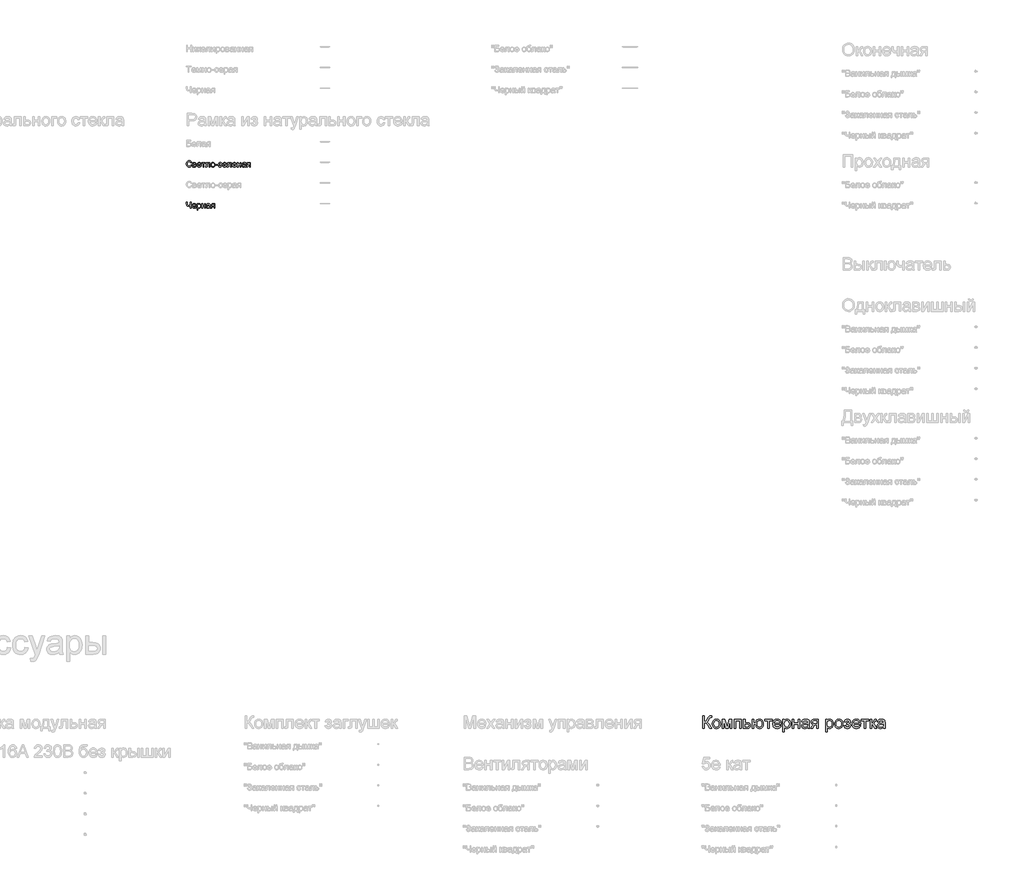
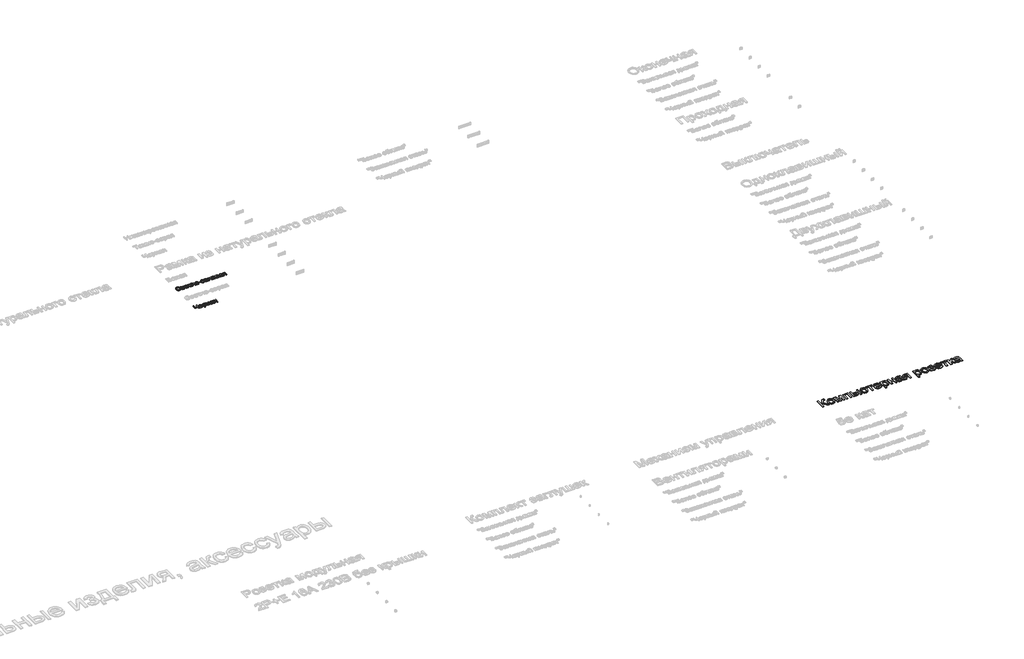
# One storey, part 107 of 168: 3 proxies.
"""IFC4 building model written with IfcOpenShell, lengths in millimetres."""

from ifc_helpers import new_model, si_unit, origin, origin_with_axes, place, context, project, spatial, polyline, outline, extrude, element, save

model = new_model("IFC4")

# Units and contexts
model_context = context("Model", 3, world=origin())
ifc_project = project(units=[si_unit("LENGTHUNIT", "METRE", prefix="MILLI")], contexts=[model_context])

# Site, building, storey
site = spatial("IfcSite", under=ifc_project)
building = spatial("IfcBuilding", under=site)
storey = spatial("IfcBuildingStorey", under=building, Name="Этаж 01", Elevation=0.0)

# Proxies
placement = place(None, origin())
element("IfcBuildingElementProxy", 1, Name="300 мм Arial 2", ObjectType="300 мм Arial 2", at=placement, inside=storey, context=model_context, shape_type="SweptSolid", body=[
    extrude(outline(polyline([(60199.0945017, -30665.4933673), (60236.765618, -30665.4933673), (60236.765618, -30797.3422744), (60262.2690373, -30794.8498738), (60278.8881064, -30787.3726723), (60292.3249963, -30769.7787159), (60308.2818778, -30736.9360507), (60329.0672106, -30694.8135623), (60339.0919949, -30683.4000234), (60352.6116582, -30673.9546532), (60368.6605103, -30667.6086888), (60386.2728608, -30665.4933673), (60410.9945309, -30665.9348257), (60410.9945309, -30703.605942), (60402.6803978, -30703.3852128), (60394.3662647, -30703.1644836), (60377.1125991, -30705.4269579), (60364.9357051, -30712.2143807), (60354.4510682, -30726.469808), (60342.5684798, -30750.989143), (60327.9911557, -30781.5233486), (60315.8970351, -30798.2251911), (60289.8877781, -30813.8233877), (60304.4788977, -30820.0313964), (60318.9688498, -30830.8563241), (60347.6452513, -30866.3569367), (60410.9945309, -30966.8622977), (60367.2901499, -30966.8622977), (60313.7265314, -30881.9551332), (60293.0423662, -30854.7226686), (60276.0186268, -30837.6253528), (60258.6086114, -30828.6030469), (60236.765618, -30825.5956116), (60236.765618, -30966.8622977), (60199.0945017, -30966.8622977), (60199.0945017, -30665.4933673)])), origin_with_axes(), (0.0, 0.0, 1.0), 20.0),
    extrude(outline(polyline([(60429.830089, -30856.2033936), (60431.8672356, -30827.5407876), (60437.9786752, -30802.8421102), (60448.164408, -30782.1073612), (60462.4244338, -30765.3365408), (60476.7810287, -30754.6173791), (60492.6275456, -30746.9608351), (60509.9639846, -30742.3669087), (60528.7903457, -30740.8355999), (60549.5733792, -30742.7003018), (60568.3652514, -30748.2944073), (60585.1659622, -30757.6179167), (60599.9755118, -30770.6708297), (60612.0627346, -30787.0116881), (60620.6964652, -30806.1990334), (60625.8767035, -30828.2328656), (60627.6034496, -30853.1131848), (60624.5500291, -30891.1705772), (60615.3897674, -30920.1412843), (60600.389379, -30941.837125), (60579.8155785, -30958.069918), (60555.3790169, -30968.19587), (60528.7903457, -30971.5711873), (60507.7038096, -30969.7133832), (60488.7371935, -30964.139971), (60471.8904974, -30954.8509506), (60457.1637213, -30941.8463221), (60445.2052572, -30925.3468146), (60436.6634971, -30905.5731573), (60431.538441, -30882.5253503), (60429.830089, -30856.2033936)]), holes=[polyline([(60467.5012053, -30856.1298172), (60471.860607, -30890.2232811), (60484.9388119, -30914.5126898), (60504.6204987, -30929.0532257), (60528.7903457, -30933.900071), (60552.8498282, -30929.0256345), (60572.4947268, -30914.4023252), (60585.5729317, -30889.7910197), (60589.9323333, -30854.9525948), (60585.5453405, -30821.8524123), (60572.3843622, -30797.8940973), (60552.7118725, -30783.3535615), (60528.7903457, -30778.5067162), (60504.6204987, -30783.3351674), (60484.9388119, -30797.820521), (60471.860607, -30822.0547474), (60467.5012053, -30856.1298172)])]), origin_with_axes(), (0.0, 0.0, 1.0), 20.0),
    extrude(outline(polyline([(60669.9834555, -30745.5444894), (60734.804263, -30745.5444894), (60784.762638, -30922.7164583), (60838.6205621, -30745.5444894), (60900.7190429, -30745.5444894), (60900.7190429, -30966.8622977), (60863.0479266, -30966.8622977), (60863.0479266, -30788.6602593), (60808.8956969, -30966.8622977), (60759.4523567, -30966.8622977), (60707.6545718, -30780.125397), (60707.6545718, -30966.8622977), (60669.9834555, -30966.8622977), (60669.9834555, -30745.5444894)])), origin_with_axes(), (0.0, 0.0, 1.0), 20.0),
    extrude(outline(polyline([(60957.2257173, -30745.5444894), (61126.7457407, -30745.5444894), (61126.7457407, -30966.8622977), (61089.0746244, -30966.8622977), (61089.0746244, -30783.2156057), (60994.8968336, -30783.2156057), (60994.8968336, -30966.8622977), (60957.2257173, -30966.8622977), (60957.2257173, -30745.5444894)])), origin_with_axes(), (0.0, 0.0, 1.0), 20.0),
    extrude(outline(polyline([(61183.2524152, -30745.5444894), (61220.9235315, -30745.5444894), (61220.9235315, -30825.5956116), (61264.3336069, -30825.5956116), (61301.967935, -30830.3136982), (61317.1154761, -30836.2113064), (61329.816602, -30844.4679579), (61339.8597805, -30854.7985442), (61347.0334794, -30866.9179567), (61352.7724385, -30896.5232603), (61347.888805, -30923.4798135), (61333.2379046, -30946.2241178), (61322.0060074, -30955.2533215), (61307.8448499, -30961.7027528), (61270.7347536, -30966.8622977), (61183.2524152, -30966.8622977), (61183.2524152, -30745.5444894)]), holes=[polyline([(61220.9235315, -30929.1911814), (61256.0930502, -30929.1911814), (61283.3806972, -30927.2138157), (61301.5264766, -30921.2817185), (61311.7076108, -30911.1557666), (61315.1013222, -30896.5968367), (61312.5905276, -30884.2911839), (61305.0581438, -30873.420271), (61288.9173212, -30865.8051137), (61260.5812105, -30863.2667279), (61220.9235315, -30863.2667279), (61220.9235315, -30929.1911814)])]), origin_with_axes(), (0.0, 0.0, 1.0), 20.0),
    extrude(outline(polyline([(61399.8613339, -30745.5444894), (61437.5324502, -30745.5444894), (61437.5324502, -30830.3045011), (61479.9124561, -30830.3045011), (61489.6889201, -30791.8976208), (61498.2122861, -30776.5569416), (61509.1590747, -30763.7914364), (61522.2211848, -30753.7482579), (61537.0905152, -30746.574559), (61572.2508369, -30740.8355999), (61601.8009581, -30744.2109172), (61624.3797156, -30754.3368691), (61641.798928, -30770.3857212), (61655.8704144, -30791.5297388), (61665.1686318, -30819.3416177), (61668.2680376, -30855.3940532), (61666.6654517, -30882.2494388), (61661.8576938, -30905.6467337), (61653.8447641, -30925.5859379), (61642.6266625, -30942.0670513), (61628.6632416, -30954.9751108), (61612.4143537, -30964.1951533), (61593.8799989, -30969.7271788), (61573.0601772, -30971.5711873), (61553.6567013, -30969.8421419), (61536.2811748, -30964.6550058), (61520.9335978, -30956.0097789), (61507.6139703, -30943.9064612), (61496.6533861, -30928.7865112), (61488.382939, -30911.0913873), (61479.9124561, -30867.9756174), (61437.5324502, -30867.9756174), (61437.5324502, -30966.8622977), (61399.8613339, -30966.8622977), (61399.8613339, -30745.5444894)]), holes=[polyline([(61574.678858, -30778.5067162), (61550.6653608, -30783.3811526), (61532.629946, -30798.0044619), (61521.3451658, -30821.4201509), (61517.5835724, -30852.6717264), (61521.3727569, -30889.0828469), (61532.7403106, -30914.2919606), (61550.4538286, -30928.9980434), (61573.2809064, -30933.900071), (61596.1723636, -30929.3659254), (61614.5204781, -30915.7634886), (61626.5778105, -30892.0626911), (61630.5969213, -30857.2334632), (61627.1204364, -30822.7905114), (61616.6909819, -30798.1884029), (61599.2349812, -30783.4271379), (61574.678858, -30778.5067162)])]), origin_with_axes(), (0.0, 0.0, 1.0), 20.0),
    extrude(outline(polyline([(61696.5213748, -30745.5444894), (61875.4591773, -30745.5444894), (61875.4591773, -30783.2156057), (61804.8258342, -30783.2156057), (61804.8258342, -30966.8622977), (61767.1547179, -30966.8622977), (61767.1547179, -30783.2156057), (61696.5213748, -30783.2156057), (61696.5213748, -30745.5444894)])), origin_with_axes(), (0.0, 0.0, 1.0), 20.0),
    extrude(outline(polyline([(62063.3733004, -30900.9378442), (62100.3086527, -30905.6467337), (62087.0005216, -30933.4770067), (62065.7645334, -30954.2807335), (62037.0789348, -30967.2485738), (62001.4219724, -30971.5711873), (61978.0476702, -30969.7064854), (61957.2209507, -30964.1123798), (61938.9418141, -30954.7888705), (61923.2102603, -30941.7359575), (61910.5597181, -30925.3169242), (61901.5236166, -30905.8950541), (61896.1019557, -30883.4703472), (61894.2947354, -30858.0428036), (61896.1203498, -30831.7530365), (61901.597193, -30808.5810693), (61910.725265, -30788.526902), (61923.5045658, -30771.5905347), (61939.1947329, -30758.1352507), (61957.0554038, -30748.5243336), (61977.0865784, -30742.7577833), (61999.2882569, -30740.8355999), (62020.7748646, -30742.7531848), (62040.2059318, -30748.5059395), (62057.5814583, -30758.093864), (62072.9014441, -30771.5169583), (62085.4071327, -30788.4165374), (62094.3397674, -30808.4339165), (62099.6993482, -30831.5690955), (62101.4858751, -30857.8220744), (62101.2651459, -30867.9756174), (61931.9658517, -30867.9756174), (61938.4865601, -30896.1737724), (61953.6341013, -30916.9039228), (61975.4954888, -30929.6510339), (62002.1577364, -30933.900071), (62022.2073052, -30931.9319023), (62039.0930887, -30926.0273963), (62052.8150872, -30915.8186709), (62063.3733004, -30900.9378442)]), holes=[polyline([(61931.9658517, -30830.3045011), (62063.8147588, -30830.3045011), (62058.7195932, -30810.4020852), (62048.731597, -30796.165052), (62026.7690419, -30782.9213001), (61999.1411041, -30778.5067162), (61973.7480493, -30782.0291863), (61952.7511845, -30792.5965966), (61938.1554663, -30809.068513), (61931.9658517, -30830.3045011)])]), origin_with_axes(), (0.0, 0.0, 1.0), 20.0),
    extrude(outline(polyline([(62139.1569914, -31051.6223094), (62139.1569914, -30745.5444894), (62176.8281077, -30745.5444894), (62176.8281077, -30782.4798418), (62189.1153664, -30764.2604859), (62202.874153, -30751.2466604), (62218.913808, -30743.438365), (62238.0436717, -30740.8355999), (62263.5194999, -30744.4776316), (62285.7947547, -30755.4037269), (62303.9313371, -30772.9516981), (62316.9911479, -30796.4593576), (62324.8822167, -30824.2160541), (62327.512573, -30854.5111364), (62324.5419258, -30886.7284021), (62315.6299845, -30915.5427594), (62301.0618575, -30939.4918773), (62281.1226534, -30957.1134249), (62257.9001024, -30967.9567467), (62233.481935, -30971.5711873), (62216.1638901, -30969.1523632), (62200.7036492, -30961.8958908), (62187.4690944, -30950.9422044), (62176.8281077, -30937.4317381), (62176.8281077, -31051.6223094), (62139.1569914, -31051.6223094)]), holes=[polyline([(62176.8281077, -30857.9692272), (62180.9024008, -30891.7407943), (62193.1252801, -30915.3588184), (62211.1606949, -30929.2647578), (62232.6725946, -30933.900071), (62254.5339822, -30929.0992109), (62273.0292495, -30914.6966308), (62285.6384049, -30890.214084), (62289.8414566, -30855.173324), (62285.7395724, -30821.5856978), (62273.4339197, -30797.63658), (62255.426096, -30783.2891821), (62234.217699, -30778.5067162), (62212.9265285, -30783.5926848), (62194.2289261, -30798.8505905), (62181.1783123, -30823.8021869), (62176.8281077, -30857.9692272)])]), origin_with_axes(), (0.0, 0.0, 1.0), 20.0),
    extrude(outline(polyline([(62369.8925788, -30745.5444894), (62407.5636951, -30745.5444894), (62407.5636951, -30830.3045011), (62506.4503754, -30830.3045011), (62506.4503754, -30745.5444894), (62544.1214917, -30745.5444894), (62544.1214917, -30966.8622977), (62506.4503754, -30966.8622977), (62506.4503754, -30867.9756174), (62407.5636951, -30867.9756174), (62407.5636951, -30966.8622977), (62369.8925788, -30966.8622977), (62369.8925788, -30745.5444894)])), origin_with_axes(), (0.0, 0.0, 1.0), 20.0),
    extrude(outline(polyline([(62741.8948523, -30938.6089605), (62723.8962257, -30954.0416102), (62705.3641702, -30964.139971), (62685.8756215, -30969.7133832), (62665.0075153, -30971.5711873), (62633.5260136, -30967.101421), (62610.3034626, -30953.6921223), (62595.983656, -30933.3298539), (62591.2103871, -30908.0011785), (62593.0130089, -30892.3845878), (62598.4208742, -30878.2027369), (62606.7625984, -30866.0626311), (62617.366797, -30856.5712756), (62643.743936, -30844.2104405), (62676.3382808, -30838.5450578), (62714.8555257, -30832.5853695), (62741.6741231, -30825.5956116), (62741.8948523, -30817.2079021), (62739.3012843, -30800.3956949), (62731.5205801, -30789.3960233), (62714.1197617, -30781.229043), (62689.8763382, -30778.5067162), (62667.4355365, -30780.318535), (62651.7637635, -30785.7539915), (62641.0767915, -30795.806367), (62633.5903929, -30811.468943), (62595.9192766, -30806.7600534), (62602.4583791, -30786.1586617), (62612.216449, -30769.9718539), (62626.1039943, -30757.5926248), (62645.031523, -30748.413969), (62668.1804975, -30742.7301922), (62694.7323805, -30740.8355999), (62720.1990117, -30742.509463), (62740.3865361, -30747.5310522), (62755.6076537, -30755.0818302), (62766.175064, -30764.3432594), (62773.183216, -30775.7935865), (62777.7265586, -30789.9110581), (62779.5659686, -30822.8732848), (62779.5659686, -30869.741451), (62781.478955, -30935.1876579), (62788.9837477, -30966.8622977), (62751.3126314, -30966.8622977), (62741.8948523, -30938.6089605)]), holes=[polyline([(62741.8948523, -30863.2667279), (62681.1207467, -30874.8182225), (62648.7103429, -30880.9250637), (62634.0318513, -30890.8578775), (62628.8815034, -30905.3524281), (62631.6866036, -30916.5544349), (62640.1019043, -30925.7330907), (62653.9434643, -30931.8583259), (62673.0273428, -30933.900071), (62693.2608526, -30931.6467937), (62711.1399175, -30924.8869621), (62725.6344681, -30914.9265571), (62735.7144348, -30903.0715598), (62740.184201, -30890.8578775), (62741.6741231, -30873.9353058), (62741.8948523, -30863.2667279)])]), origin_with_axes(), (0.0, 0.0, 1.0), 20.0),
    extrude(outline(polyline([(63000.8837769, -30745.5444894), (63000.8837769, -30966.8622977), (62963.2126606, -30966.8622977), (62963.2126606, -30882.102286), (62942.6848453, -30882.102286), (62914.7258137, -30886.884752), (62903.5605951, -30897.3142065), (62888.4590392, -30919.0376384), (62858.4398684, -30966.8622977), (62814.8826402, -30966.8622977), (62852.7009093, -30906.3824977), (62869.4027518, -30884.67746), (62884.7802192, -30875.0389517), (62859.0284796, -30867.1478829), (62840.9286854, -30852.1566916), (62830.2233194, -30832.2174875), (62826.654864, -30809.4823802), (62831.5293004, -30783.6938523), (62846.1526098, -30763.2764016), (62870.0097571, -30749.9774675), (62902.5857078, -30745.5444894), (63000.8837769, -30745.5444894)]), holes=[polyline([(62963.2126606, -30783.2156057), (62913.5485913, -30783.2156057), (62887.8980192, -30785.3953066), (62873.3390892, -30791.934409), (62866.5792575, -30801.3981734), (62864.3259803, -30812.3518598), (62867.6461153, -30826.7084546), (62877.6065203, -30836.6688596), (62896.0098171, -30842.4905922), (62924.6586275, -30844.4311697), (62963.2126606, -30844.4311697), (62963.2126606, -30783.2156057)])]), origin_with_axes(), (0.0, 0.0, 1.0), 20.0),
    extrude(outline(polyline([(63175.1126898, -31051.6223094), (63175.1126898, -30745.5444894), (63212.7838061, -30745.5444894), (63212.7838061, -30782.4798418), (63225.0710648, -30764.2604859), (63238.8298514, -30751.2466604), (63254.8695064, -30743.438365), (63273.9993701, -30740.8355999), (63299.4751983, -30744.4776316), (63321.7504531, -30755.4037269), (63339.8870355, -30772.9516981), (63352.9468463, -30796.4593576), (63360.8379151, -30824.2160541), (63363.4682714, -30854.5111364), (63360.4976243, -30886.7284021), (63351.5856829, -30915.5427594), (63337.0175559, -30939.4918773), (63317.0783518, -30957.1134249), (63293.8558008, -30967.9567467), (63269.4376334, -30971.5711873), (63252.1195885, -30969.1523632), (63236.6593476, -30961.8958908), (63223.4247929, -30950.9422044), (63212.7838061, -30937.4317381), (63212.7838061, -31051.6223094), (63175.1126898, -31051.6223094)]), holes=[polyline([(63212.7838061, -30857.9692272), (63216.8580992, -30891.7407943), (63229.0809785, -30915.3588184), (63247.1163933, -30929.2647578), (63268.628293, -30933.900071), (63290.4896806, -30929.0992109), (63308.9849479, -30914.6966308), (63321.5941033, -30890.214084), (63325.7971551, -30855.173324), (63321.6952708, -30821.5856978), (63309.3896181, -30797.63658), (63291.3817944, -30783.2891821), (63270.1733974, -30778.5067162), (63248.8822269, -30783.5926848), (63230.1846245, -30798.8505905), (63217.1340107, -30823.8021869), (63212.7838061, -30857.9692272)])]), origin_with_axes(), (0.0, 0.0, 1.0), 20.0),
    extrude(outline(polyline([(63396.4304981, -30856.2033936), (63398.4676447, -30827.5407876), (63404.5790843, -30802.8421102), (63414.7648171, -30782.1073612), (63429.0248429, -30765.3365408), (63443.3814378, -30754.6173791), (63459.2279547, -30746.9608351), (63476.5643937, -30742.3669087), (63495.3907548, -30740.8355999), (63516.1737883, -30742.7003018), (63534.9656605, -30748.2944073), (63551.7663713, -30757.6179167), (63566.5759209, -30770.6708297), (63578.6631437, -30787.0116881), (63587.2968743, -30806.1990334), (63592.4771126, -30828.2328656), (63594.2038587, -30853.1131848), (63591.1504382, -30891.1705772), (63581.9901765, -30920.1412843), (63566.9897882, -30941.837125), (63546.4159876, -30958.069918), (63521.979426, -30968.19587), (63495.3907548, -30971.5711873), (63474.3042187, -30969.7133832), (63455.3376026, -30964.139971), (63438.4909065, -30954.8509506), (63423.7641304, -30941.8463221), (63411.8056663, -30925.3468146), (63403.2639062, -30905.5731573), (63398.1388502, -30882.5253503), (63396.4304981, -30856.2033936)]), holes=[polyline([(63434.1016144, -30856.1298172), (63438.4610161, -30890.2232811), (63451.539221, -30914.5126898), (63471.2209078, -30929.0532257), (63495.3907548, -30933.900071), (63519.4502373, -30929.0256345), (63539.0951359, -30914.4023252), (63552.1733408, -30889.7910197), (63556.5327424, -30854.9525948), (63552.1457496, -30821.8524123), (63538.9847713, -30797.8940973), (63519.3122816, -30783.3535615), (63495.3907548, -30778.5067162), (63471.2209078, -30783.3351674), (63451.539221, -30797.820521), (63438.4610161, -30822.0547474), (63434.1016144, -30856.1298172)])]), origin_with_axes(), (0.0, 0.0, 1.0), 20.0),
    extrude(outline(polyline([(63688.3816495, -30867.9756174), (63688.3816495, -30830.3045011), (63718.1065147, -30828.8329731), (63733.1161001, -30820.9970866), (63738.4136009, -30813.6486438), (63740.1794344, -30804.6263379), (63737.8157926, -30793.9117748), (63730.7248672, -30785.6068387), (63719.8999394, -30780.2817468), (63706.3342909, -30778.5067162), (63692.6214895, -30780.2725498), (63681.1343742, -30785.5700505), (63671.872945, -30794.3992184), (63664.8372018, -30806.7600534), (63622.457196, -30802.0511639), (63633.6959909, -30775.2693546), (63650.7841096, -30756.1394909), (63673.721552, -30744.6615726), (63702.5083181, -30740.8355999), (63733.9990169, -30745.4985042), (63757.8377702, -30759.4872171), (63772.8473556, -30779.950653), (63777.8505507, -30804.0377267), (63776.0709216, -30816.3985617), (63770.7320341, -30827.4350216), (63761.8338884, -30837.1471062), (63749.3764843, -30845.5348157), (63763.9170202, -30856.0010585), (63774.2820954, -30869.005687), (63780.4901041, -30884.5854895), (63782.5594403, -30902.7772542), (63777.3079248, -30930.5063596), (63761.5533784, -30952.4781117), (63736.3626587, -30966.7979184), (63702.8026237, -30971.5711873), (63669.9783527, -30967.1566033), (63644.8612095, -30953.9128515), (63627.4511941, -30931.8399318), (63617.7483064, -30900.9378442), (63660.1283123, -30896.2289547), (63666.4742767, -30912.1582451), (63677.1244605, -30924.0408335), (63690.8464589, -30931.4352616), (63706.4078673, -30933.900071), (63721.5646055, -30931.5364291), (63733.9254405, -30924.4455037), (63742.1476031, -30913.6757583), (63744.888324, -30900.2756566), (63743.1868697, -30889.662261), (63738.0825071, -30880.4836053), (63723.5879564, -30869.8886038), (63695.7392894, -30867.7548882), (63688.3816495, -30867.9756174)])), origin_with_axes(), (0.0, 0.0, 1.0), 20.0),
    extrude(outline(polyline([(63984.600232, -30900.9378442), (64021.5355843, -30905.6467337), (64008.2274532, -30933.4770067), (63986.991465, -30954.2807335), (63958.3058664, -30967.2485738), (63922.648904, -30971.5711873), (63899.2746018, -30969.7064854), (63878.4478823, -30964.1123798), (63860.1687457, -30954.7888705), (63844.4371919, -30941.7359575), (63831.7866498, -30925.3169242), (63822.7505482, -30905.8950541), (63817.3288873, -30883.4703472), (63815.521667, -30858.0428036), (63817.3472814, -30831.7530365), (63822.8241246, -30808.5810693), (63831.9521967, -30788.526902), (63844.7314975, -30771.5905347), (63860.4216646, -30758.1352507), (63878.2823354, -30748.5243336), (63898.3135101, -30742.7577833), (63920.5151885, -30740.8355999), (63942.0017962, -30742.7531848), (63961.4328634, -30748.5059395), (63978.8083899, -30758.093864), (63994.1283757, -30771.5169583), (64006.6340643, -30788.4165374), (64015.566699, -30808.4339165), (64020.9262798, -30831.5690955), (64022.7128067, -30857.8220744), (64022.4920775, -30867.9756174), (63853.1927833, -30867.9756174), (63859.7134917, -30896.1737724), (63874.8610329, -30916.9039228), (63896.7224204, -30929.6510339), (63923.384668, -30933.900071), (63943.4342368, -30931.9319023), (63960.3200203, -30926.0273963), (63974.0420188, -30915.8186709), (63984.600232, -30900.9378442)]), holes=[polyline([(63853.1927833, -30830.3045011), (63985.0416904, -30830.3045011), (63979.9465248, -30810.4020852), (63969.9585286, -30796.165052), (63947.9959735, -30782.9213001), (63920.3680357, -30778.5067162), (63894.974981, -30782.0291863), (63873.9781161, -30792.5965966), (63859.3823979, -30809.068513), (63853.1927833, -30830.3045011)])]), origin_with_axes(), (0.0, 0.0, 1.0), 20.0),
    extrude(outline(polyline([(64041.5483649, -30745.5444894), (64220.4861673, -30745.5444894), (64220.4861673, -30783.2156057), (64149.8528243, -30783.2156057), (64149.8528243, -30966.8622977), (64112.181708, -30966.8622977), (64112.181708, -30783.2156057), (64041.5483649, -30783.2156057), (64041.5483649, -30745.5444894)])), origin_with_axes(), (0.0, 0.0, 1.0), 20.0),
    extrude(outline(polyline([(64253.4483941, -30745.5444894), (64291.1195104, -30745.5444894), (64291.1195104, -30839.7222802), (64306.4417955, -30838.030023), (64316.3562153, -30832.9532515), (64325.1302009, -30819.7094997), (64337.0311834, -30793.5163016), (64354.2112726, -30759.4872171), (64369.3680108, -30748.413969), (64396.9223722, -30745.5444894), (64404.1328593, -30745.5444894), (64404.1328593, -30783.4363349), (64393.9793163, -30783.2156057), (64375.5852165, -30787.1887313), (64362.6357703, -30811.9839778), (64347.4422439, -30838.8025752), (64326.1418763, -30851.9359624), (64338.0796471, -30857.2380617), (64349.9070532, -30866.5960599), (64373.2307717, -30897.4797534), (64413.5506384, -30966.8622977), (64370.7291742, -30966.8622977), (64331.2186479, -30898.9512814), (64311.3530201, -30870.2196976), (64302.0639998, -30865.0049703), (64291.1195104, -30863.2667279), (64291.1195104, -30966.8622977), (64253.4483941, -30966.8622977), (64253.4483941, -30745.5444894)])), origin_with_axes(), (0.0, 0.0, 1.0), 20.0),
    extrude(outline(polyline([(64578.3617722, -30938.6089605), (64560.3631456, -30954.0416102), (64541.8310901, -30964.139971), (64522.3425414, -30969.7133832), (64501.4744353, -30971.5711873), (64469.9929335, -30967.101421), (64446.7703826, -30953.6921223), (64432.4505759, -30933.3298539), (64427.677307, -30908.0011785), (64429.4799288, -30892.3845878), (64434.8877941, -30878.2027369), (64443.2295184, -30866.0626311), (64453.8337169, -30856.5712756), (64480.2108559, -30844.2104405), (64512.8052007, -30838.5450578), (64551.3224456, -30832.5853695), (64578.141043, -30825.5956116), (64578.3617722, -30817.2079021), (64575.7682042, -30800.3956949), (64567.9875, -30789.3960233), (64550.5866816, -30781.229043), (64526.3432581, -30778.5067162), (64503.9024564, -30780.318535), (64488.2306834, -30785.7539915), (64477.5437115, -30795.806367), (64470.0573129, -30811.468943), (64432.3861966, -30806.7600534), (64438.925299, -30786.1586617), (64448.6833689, -30769.9718539), (64462.5709143, -30757.5926248), (64481.4984429, -30748.413969), (64504.6474175, -30742.7301922), (64531.1993005, -30740.8355999), (64556.6659316, -30742.509463), (64576.8534561, -30747.5310522), (64592.0745736, -30755.0818302), (64602.6419839, -30764.3432594), (64609.6501359, -30775.7935865), (64614.1934786, -30789.9110581), (64616.0328885, -30822.8732848), (64616.0328885, -30869.741451), (64617.9458749, -30935.1876579), (64625.4506676, -30966.8622977), (64587.7795513, -30966.8622977), (64578.3617722, -30938.6089605)]), holes=[polyline([(64578.3617722, -30863.2667279), (64517.5876666, -30874.8182225), (64485.1772629, -30880.9250637), (64470.4987713, -30890.8578775), (64465.3484233, -30905.3524281), (64468.1535235, -30916.5544349), (64476.5688242, -30925.7330907), (64490.4103842, -30931.8583259), (64509.4942627, -30933.900071), (64529.7277725, -30931.6467937), (64547.6068374, -30924.8869621), (64562.1013881, -30914.9265571), (64572.1813547, -30903.0715598), (64576.651121, -30890.8578775), (64578.141043, -30873.9353058), (64578.3617722, -30863.2667279)])]), origin_with_axes(), (0.0, 0.0, 1.0), 20.0),
])
element("IfcBuildingElementProxy", 2, Name="150", ObjectType="150", at=placement, inside=storey, context=model_context, shape_type="SweptSolid", body=[
    extrude(outline(polyline([(47788.5634029, -17294.8420631), (47807.398961, -17299.6981054), (47798.7077489, -17321.6468649), (47785.0685239, -17337.6819214), (47767.1526708, -17347.4905751), (47745.631574, -17350.7601263), (47723.7839821, -17348.2861199), (47706.4337475, -17340.8641007), (47693.1348133, -17328.751586), (47683.4411228, -17312.2060932), (47677.5228212, -17292.7543327), (47675.550054, -17271.9230148), (47677.7803386, -17249.9512626), (47684.4711923, -17230.9777487), (47695.2731274, -17215.6048798), (47709.8366559, -17204.4350628), (47727.1087156, -17197.6338444), (47746.0362442, -17195.3667716), (47766.6882197, -17198.3006305), (47783.7625428, -17207.1022072), (47796.7257847, -17221.2288758), (47805.0445163, -17240.1380104), (47786.2089581, -17244.6261707), (47779.6790527, -17230.8903767), (47770.7579143, -17221.4679991), (47759.3351784, -17216.0187471), (47745.3004803, -17214.2023297), (47729.1228695, -17216.2164837), (47715.8331324, -17222.2589454), (47705.7485672, -17231.6951186), (47699.1864722, -17243.8904067), (47694.3856121, -17271.8862266), (47695.8065563, -17289.2870449), (47700.0693889, -17304.3334185), (47707.3350583, -17316.4505318), (47717.7645129, -17325.063569), (47730.2679022, -17330.2093184), (47743.7553759, -17331.9245682), (47759.4777326, -17329.5885175), (47772.5789302, -17322.5803655), (47782.4703573, -17310.9736886), (47788.5634029, -17294.8420631)])), origin_with_axes(), (0.0, 0.0, 1.0), 20.0),
    extrude(outline(polyline([(47830.9434087, -17237.7467774), (47872.4404978, -17237.7467774), (47895.1939992, -17240.2667691), (47907.9962926, -17249.5006072), (47913.3489756, -17265.5954445), (47910.1116141, -17278.6736494), (47900.3627412, -17287.999458), (47913.0178819, -17298.2081833), (47918.0578652, -17315.9584896), (47914.8664889, -17330.3150845), (47907.2789227, -17340.4226423), (47895.2675756, -17346.4099217), (47878.8048563, -17348.4056816), (47830.9434087, -17348.4056816), (47830.9434087, -17237.7467774)]), holes=[polyline([(47849.7789669, -17280.1267833), (47868.3937958, -17280.1267833), (47883.7528691, -17279.1702901), (47891.2208736, -17275.3443173), (47894.5134175, -17268.4281358), (47893.0694807, -17262.8087383), (47888.7376702, -17259.1942977), (47868.982407, -17256.5823356), (47849.7789669, -17256.5823356), (47849.7789669, -17280.1267833)]), polyline([(47849.7789669, -17329.5701234), (47872.8819562, -17329.5701234), (47893.3729833, -17326.167215), (47897.6128233, -17321.5273033), (47899.222307, -17314.4133852), (47896.0033396, -17305.345094), (47887.6156301, -17300.0659874), (47871.0425462, -17298.9623414), (47849.7789669, -17298.9623414), (47849.7789669, -17329.5701234)])]), origin_with_axes(), (0.0, 0.0, 1.0), 20.0),
    extrude(outline(polyline([(48019.0782611, -17315.4434548), (48037.5459372, -17317.7978996), (48030.8918716, -17331.713036), (48020.2738775, -17342.1148995), (48005.9310783, -17348.5988196), (47988.1025971, -17350.7601263), (47966.0020862, -17347.0307226), (47948.996741, -17335.8425114), (47938.1534192, -17317.9220597), (47934.5389786, -17293.9959345), (47938.1902074, -17269.2650674), (47949.1438938, -17250.7698), (47965.9193128, -17239.2366995), (47987.0357393, -17235.3923327), (48007.4945767, -17239.2275025), (48023.8423329, -17250.7330118), (48034.5614945, -17269.191491), (48038.1345484, -17293.8855699), (48038.0241838, -17298.9623414), (47953.3745367, -17298.9623414), (47956.6348909, -17313.0614189), (47964.2086615, -17323.4264941), (47975.1393553, -17329.8000497), (47988.4704791, -17331.9245682), (48006.9381552, -17327.9882308), (48019.0782611, -17315.4434548)]), holes=[polyline([(47953.3745367, -17280.1267833), (48019.2989903, -17280.1267833), (48016.7514074, -17270.1755753), (48011.7574094, -17263.0570587), (48000.7761318, -17256.4351828), (47986.9621629, -17254.2278908), (47974.2656355, -17255.9891259), (47963.7672031, -17261.272831), (47956.469344, -17269.5087892), (47953.3745367, -17280.1267833)])]), origin_with_axes(), (0.0, 0.0, 1.0), 20.0),
    extrude(outline(polyline([(48047.5523275, -17237.7467774), (48137.0212287, -17237.7467774), (48137.0212287, -17256.5823356), (48101.7045572, -17256.5823356), (48101.7045572, -17348.4056816), (48082.868999, -17348.4056816), (48082.868999, -17256.5823356), (48047.5523275, -17256.5823356), (48047.5523275, -17237.7467774)])), origin_with_axes(), (0.0, 0.0, 1.0), 20.0),
    extrude(outline(polyline([(48162.9201212, -17237.7467774), (48247.6801329, -17237.7467774), (48247.6801329, -17348.295317), (48228.8445747, -17348.295317), (48228.8445747, -17256.5823356), (48181.7556793, -17256.5823356), (48181.7556793, -17309.3734019), (48180.4864864, -17333.72719), (48173.5151226, -17344.0094917), (48157.0340093, -17348.4056816), (48141.7301183, -17347.4491884), (48141.7301183, -17329.5701234), (48150.1546159, -17329.5701234), (48158.6710841, -17328.4112951), (48162.0739926, -17324.7324752), (48162.9201212, -17308.3065441), (48162.9201212, -17237.7467774)])), origin_with_axes(), (0.0, 0.0, 1.0), 20.0),
    extrude(outline(polyline([(48271.2245806, -17293.0762295), (48275.2988737, -17266.3955878), (48287.5217529, -17247.6428031), (48302.6233088, -17238.4549503), (48320.7047089, -17235.3923327), (48340.4921617, -17239.1217364), (48356.2972919, -17250.3099476), (48366.6577686, -17268.0740494), (48370.1112609, -17291.5311251), (48368.5845506, -17310.5598213), (48364.0044197, -17325.0451749), (48356.5042256, -17335.8930952), (48346.2173253, -17344.0094917), (48333.9990445, -17349.0724677), (48320.7047089, -17350.7601263), (48300.6781328, -17347.0445182), (48284.8913967, -17335.8976937), (48274.6412846, -17317.7611114), (48271.2245806, -17293.0762295)]), holes=[polyline([(48290.0601387, -17293.0394413), (48292.2398395, -17310.0861732), (48298.778942, -17322.2308776), (48308.6197854, -17329.5011455), (48320.7047089, -17331.9245682), (48332.7344502, -17329.48735), (48342.5568994, -17322.1756953), (48349.0960019, -17309.8700426), (48351.2757027, -17292.4508301), (48349.0822063, -17275.9007388), (48342.5017171, -17263.9215814), (48332.6654723, -17256.6513134), (48320.7047089, -17254.2278908), (48308.6197854, -17256.6421164), (48298.778942, -17263.8847932), (48292.2398395, -17276.0019064), (48290.0601387, -17293.0394413)])]), origin_with_axes(), (0.0, 0.0, 1.0), 20.0),
    extrude(outline(polyline([(48381.8834847, -17303.671231), (48381.8834847, -17284.8356728), (48440.7446039, -17284.8356728), (48440.7446039, -17303.671231), (48381.8834847, -17303.671231)])), origin_with_axes(), (0.0, 0.0, 1.0), 20.0),
    extrude(outline(polyline([(48487.8334993, -17298.9623414), (48487.8334993, -17280.1267833), (48502.6959319, -17279.3910193), (48510.2007246, -17275.473076), (48513.7323918, -17267.2877016), (48509.0051081, -17257.7779521), (48496.80982, -17254.2278908), (48484.2098617, -17257.759558), (48476.0612755, -17268.3545594), (48454.8712725, -17266.0001146), (48460.49067, -17252.60921), (48469.0347294, -17243.0442782), (48480.5034506, -17237.305319), (48494.8968336, -17235.3923327), (48510.642183, -17237.7237848), (48522.5615597, -17244.7181412), (48530.0663524, -17254.9498592), (48532.5679499, -17266.993396), (48529.0086916, -17278.6920435), (48518.3309167, -17287.7419406), (48530.7837223, -17299.4773762), (48534.9223947, -17316.3631598), (48532.296637, -17330.2277125), (48524.4193637, -17341.2135886), (48511.8240039, -17348.3734919), (48495.0439864, -17350.7601263), (48478.6318509, -17348.5528344), (48466.0732793, -17341.9309585), (48457.3682716, -17330.8944986), (48452.5168278, -17315.4434548), (48473.7068307, -17313.08901), (48482.2049048, -17326.9949494), (48496.8466082, -17331.9245682), (48510.6053948, -17327.1972845), (48516.0868365, -17315.112361), (48512.6839281, -17305.2163353), (48505.4366528, -17299.9188346), (48491.5123193, -17298.8519768), (48487.8334993, -17298.9623414)])), origin_with_axes(), (0.0, 0.0, 1.0), 20.0),
    extrude(outline(polyline([(48635.9427906, -17315.4434548), (48654.4104667, -17317.7978996), (48647.7564011, -17331.713036), (48637.1384071, -17342.1148995), (48622.7956078, -17348.5988196), (48604.9671266, -17350.7601263), (48582.8666157, -17347.0307226), (48565.8612705, -17335.8425114), (48555.0179487, -17317.9220597), (48551.4035081, -17293.9959345), (48555.0547369, -17269.2650674), (48566.0084233, -17250.7698), (48582.7838423, -17239.2366995), (48603.9002688, -17235.3923327), (48624.3591063, -17239.2275025), (48640.7068624, -17250.7330118), (48651.426024, -17269.191491), (48654.9990779, -17293.8855699), (48654.8887133, -17298.9623414), (48570.2390662, -17298.9623414), (48573.4994204, -17313.0614189), (48581.073191, -17323.4264941), (48592.0038848, -17329.8000497), (48605.3350086, -17331.9245682), (48623.8026847, -17327.9882308), (48635.9427906, -17315.4434548)]), holes=[polyline([(48570.2390662, -17280.1267833), (48636.1635198, -17280.1267833), (48633.615937, -17270.1755753), (48628.6219389, -17263.0570587), (48617.6406613, -17256.4351828), (48603.8266924, -17254.2278908), (48591.130165, -17255.9891259), (48580.6317326, -17261.272831), (48573.3338735, -17269.5087892), (48570.2390662, -17280.1267833)])]), origin_with_axes(), (0.0, 0.0, 1.0), 20.0),
    extrude(outline(polyline([(48683.2524152, -17237.7467774), (48768.0124268, -17237.7467774), (48768.0124268, -17348.295317), (48749.1768687, -17348.295317), (48749.1768687, -17256.5823356), (48702.0879733, -17256.5823356), (48702.0879733, -17309.3734019), (48700.8187804, -17333.72719), (48693.8474166, -17344.0094917), (48677.3663032, -17348.4056816), (48662.0624122, -17347.4491884), (48662.0624122, -17329.5701234), (48670.4869099, -17329.5701234), (48679.0033781, -17328.4112951), (48682.4062866, -17324.7324752), (48683.2524152, -17308.3065441), (48683.2524152, -17237.7467774)])), origin_with_axes(), (0.0, 0.0, 1.0), 20.0),
    extrude(outline(polyline([(48873.7417123, -17315.4434548), (48892.2093884, -17317.7978996), (48885.5553228, -17331.713036), (48874.9373287, -17342.1148995), (48860.5945295, -17348.5988196), (48842.7660483, -17350.7601263), (48820.6655374, -17347.0307226), (48803.6601922, -17335.8425114), (48792.8168704, -17317.9220597), (48789.2024298, -17293.9959345), (48792.8536586, -17269.2650674), (48803.807345, -17250.7698), (48820.582764, -17239.2366995), (48841.6991905, -17235.3923327), (48862.1580279, -17239.2275025), (48878.5057841, -17250.7330118), (48889.2249457, -17269.191491), (48892.7979996, -17293.8855699), (48892.687635, -17298.9623414), (48808.0379879, -17298.9623414), (48811.2983421, -17313.0614189), (48818.8721127, -17323.4264941), (48829.8028065, -17329.8000497), (48843.1339303, -17331.9245682), (48861.6016064, -17327.9882308), (48873.7417123, -17315.4434548)]), holes=[polyline([(48808.0379879, -17280.1267833), (48873.9624415, -17280.1267833), (48871.4148586, -17270.1755753), (48866.4208606, -17263.0570587), (48855.439583, -17256.4351828), (48841.6256141, -17254.2278908), (48828.9290867, -17255.9891259), (48818.4306543, -17261.272831), (48811.1327952, -17269.5087892), (48808.0379879, -17280.1267833)])]), origin_with_axes(), (0.0, 0.0, 1.0), 20.0),
    extrude(outline(polyline([(48911.6335578, -17237.7467774), (48930.4691159, -17237.7467774), (48930.4691159, -17280.1267833), (48979.9124561, -17280.1267833), (48979.9124561, -17237.7467774), (48998.7480142, -17237.7467774), (48998.7480142, -17348.4056816), (48979.9124561, -17348.4056816), (48979.9124561, -17298.9623414), (48930.4691159, -17298.9623414), (48930.4691159, -17348.4056816), (48911.6335578, -17348.4056816), (48911.6335578, -17237.7467774)])), origin_with_axes(), (0.0, 0.0, 1.0), 20.0),
    extrude(outline(polyline([(49097.6346945, -17334.279013), (49079.3693535, -17347.0445182), (49059.191026, -17350.7601263), (49043.4502752, -17348.5252432), (49031.8389997, -17341.8205939), (49024.6790964, -17331.6394596), (49022.2924619, -17318.975122), (49025.8977055, -17304.0759012), (49035.3706668, -17293.2601705), (49048.5592364, -17287.079753), (49064.8564088, -17284.2470616), (49097.5243299, -17277.7723385), (49097.6346945, -17273.5784838), (49096.3379105, -17265.1723802), (49092.4475584, -17259.6725443), (49083.7471492, -17255.5890542), (49071.6254375, -17254.2278908), (49052.5691501, -17257.8515285), (49043.4824648, -17270.7090042), (49024.6469067, -17268.3545594), (49032.7954929, -17249.9604597), (49049.2030299, -17239.1815172), (49074.0534586, -17235.3923327), (49096.8805364, -17238.7400588), (49109.7748004, -17247.1461624), (49115.5505477, -17259.9300617), (49116.4702527, -17276.4111751), (49116.4702527, -17299.8452582), (49117.4267459, -17332.5683617), (49121.1791422, -17348.4056816), (49102.3435841, -17348.4056816), (49097.6346945, -17334.279013)]), holes=[polyline([(49097.6346945, -17296.6078966), (49067.2476417, -17302.383644), (49051.0424398, -17305.4370645), (49043.703194, -17310.4034715), (49041.1280201, -17317.6507468), (49046.7382205, -17327.841078), (49063.2009398, -17331.9245682), (49082.2572271, -17327.4180137), (49094.5444858, -17316.5103126), (49097.5243299, -17301.9421856), (49097.6346945, -17296.6078966)])]), origin_with_axes(), (0.0, 0.0, 1.0), 20.0),
    extrude(outline(polyline([(49227.1291568, -17237.7467774), (49227.1291568, -17348.4056816), (49208.2935987, -17348.4056816), (49208.2935987, -17306.0256757), (49198.029691, -17306.0256757), (49184.0501752, -17308.4169087), (49170.916788, -17324.4933519), (49155.9072026, -17348.4056816), (49134.1285884, -17348.4056816), (49153.037723, -17318.1657816), (49161.3886443, -17307.3132627), (49169.077378, -17302.4940086), (49156.2015082, -17298.5484742), (49147.1516111, -17291.0528785), (49141.798928, -17281.0832765), (49140.0147004, -17269.7157228), (49142.4519186, -17256.8214589), (49149.7635732, -17246.6127335), (49161.6921469, -17239.9632664), (49177.9801223, -17237.7467774), (49227.1291568, -17237.7467774)]), holes=[polyline([(49208.2935987, -17256.5823356), (49183.461564, -17256.5823356), (49170.6362779, -17257.672186), (49163.356813, -17260.9417372), (49158.8502585, -17271.1504626), (49160.510326, -17278.32876), (49165.4905285, -17283.3089625), (49189.0165821, -17287.1901176), (49208.2935987, -17287.1901176), (49208.2935987, -17256.5823356)])]), origin_with_axes(), (0.0, 0.0, 1.0), 20.0),
])
element("IfcBuildingElementProxy", 3, Name="150", ObjectType="150", at=placement, inside=storey, context=model_context, shape_type="SweptSolid", body=[
    extrude(outline(polyline([(47788.5634029, -18348.4056816), (47769.7278447, -18348.4056816), (47769.7278447, -18288.0730344), (47744.7486573, -18296.2400147), (47723.0804077, -18298.9623414), (47708.3973176, -18297.0999388), (47695.5444404, -18291.512731), (47685.5840354, -18283.0606422), (47679.5783618, -18272.6035965), (47675.550054, -18242.6028198), (47675.550054, -18197.7212163), (47694.3856121, -18197.7212163), (47694.3856121, -18240.064434), (47696.6480864, -18260.4313009), (47703.4355092, -18272.3828673), (47713.3959142, -18278.1908043), (47725.1773351, -18280.1267833), (47746.909964, -18277.7907326), (47769.7278447, -18270.7825806), (47769.7278447, -18197.7212163), (47788.5634029, -18197.7212163), (47788.5634029, -18348.4056816)])), origin_with_axes(), (0.0, 0.0, 1.0), 20.0),
    extrude(outline(polyline([(47896.6471331, -18315.4434548), (47915.1148092, -18317.7978996), (47908.4607436, -18331.713036), (47897.8427496, -18342.1148995), (47883.4999503, -18348.5988196), (47865.6714691, -18350.7601263), (47843.5709582, -18347.0307226), (47826.565613, -18335.8425114), (47815.7222912, -18317.9220597), (47812.1078506, -18293.9959345), (47815.7590794, -18269.2650674), (47826.7127658, -18250.7698), (47843.4881848, -18239.2366995), (47864.6046113, -18235.3923327), (47885.0634487, -18239.2275025), (47901.4112049, -18250.7330118), (47912.1303665, -18269.191491), (47915.7034204, -18293.8855699), (47915.5930558, -18298.9623414), (47830.9434087, -18298.9623414), (47834.2037629, -18313.0614189), (47841.7775335, -18323.4264941), (47852.7082273, -18329.8000497), (47866.0393511, -18331.9245682), (47884.5070272, -18327.9882308), (47896.6471331, -18315.4434548)]), holes=[polyline([(47830.9434087, -18280.1267833), (47896.8678623, -18280.1267833), (47894.3202794, -18270.1755753), (47889.3262814, -18263.0570587), (47878.3450038, -18256.4351828), (47864.5310349, -18254.2278908), (47851.8345075, -18255.9891259), (47841.3360751, -18261.272831), (47834.038216, -18269.5087892), (47830.9434087, -18280.1267833)])]), origin_with_axes(), (0.0, 0.0, 1.0), 20.0),
    extrude(outline(polyline([(47934.5389786, -18390.7856874), (47934.5389786, -18237.7467774), (47953.3745367, -18237.7467774), (47953.3745367, -18256.2144536), (47966.3975594, -18240.5978629), (47983.9823187, -18235.3923327), (47996.7202328, -18237.2133485), (48007.8578602, -18242.6763962), (48016.9261514, -18251.4503817), (48023.4560568, -18263.2042115), (48028.7167693, -18292.2301009), (48027.2314458, -18308.3387338), (48022.7754751, -18322.7459124), (48015.4914116, -18334.7204713), (48005.5218095, -18343.5312451), (47993.9105341, -18348.952906), (47981.7014504, -18350.7601263), (47965.3123075, -18345.9224781), (47953.3745367, -18333.6904018), (47953.3745367, -18390.7856874), (47934.5389786, -18390.7856874)]), holes=[polyline([(47953.3745367, -18293.9591463), (47955.4116833, -18310.8449299), (47961.5231229, -18322.6539419), (47970.5408303, -18329.6069116), (47981.2967802, -18331.9245682), (47992.2274739, -18329.5241382), (48001.4751076, -18322.3228481), (48007.7796853, -18310.0815747), (48009.8812112, -18292.5611947), (48007.8302691, -18275.7673816), (48001.6774427, -18263.7928227), (47992.6735309, -18256.6191238), (47982.0693323, -18254.2278908), (47971.4237471, -18256.7708751), (47962.0749459, -18264.399828), (47955.549639, -18276.8756261), (47953.3745367, -18293.9591463)])]), origin_with_axes(), (0.0, 0.0, 1.0), 20.0),
    extrude(outline(polyline([(48049.9067723, -18237.7467774), (48068.7423304, -18237.7467774), (48068.7423304, -18280.1267833), (48118.1856706, -18280.1267833), (48118.1856706, -18237.7467774), (48137.0212287, -18237.7467774), (48137.0212287, -18348.4056816), (48118.1856706, -18348.4056816), (48118.1856706, -18298.9623414), (48068.7423304, -18298.9623414), (48068.7423304, -18348.4056816), (48049.9067723, -18348.4056816), (48049.9067723, -18237.7467774)])), origin_with_axes(), (0.0, 0.0, 1.0), 20.0),
    extrude(outline(polyline([(48235.907909, -18334.279013), (48217.642568, -18347.0445182), (48197.4642405, -18350.7601263), (48181.7234897, -18348.5252432), (48170.1122142, -18341.8205939), (48162.9523109, -18331.6394596), (48160.5656764, -18318.975122), (48164.17092, -18304.0759012), (48173.6438813, -18293.2601705), (48186.8324509, -18287.079753), (48203.1296232, -18284.2470616), (48235.7975444, -18277.7723385), (48235.907909, -18273.5784838), (48234.611125, -18265.1723802), (48230.7207729, -18259.6725443), (48222.0203637, -18255.5890542), (48209.898652, -18254.2278908), (48190.8423646, -18257.8515285), (48181.7556793, -18270.7090042), (48162.9201212, -18268.3545594), (48171.0687074, -18249.9604597), (48187.4762444, -18239.1815172), (48212.3266731, -18235.3923327), (48235.1537509, -18238.7400588), (48248.0480149, -18247.1461624), (48253.8237622, -18259.9300617), (48254.7434672, -18276.4111751), (48254.7434672, -18299.8452582), (48255.6999604, -18332.5683617), (48259.4523567, -18348.4056816), (48240.6167986, -18348.4056816), (48235.907909, -18334.279013)]), holes=[polyline([(48235.907909, -18296.6078966), (48205.5208562, -18302.383644), (48189.3156543, -18305.4370645), (48181.9764085, -18310.4034715), (48179.4012346, -18317.6507468), (48185.011435, -18327.841078), (48201.4741543, -18331.9245682), (48220.5304416, -18327.4180137), (48232.8177003, -18316.5103126), (48235.7975444, -18301.9421856), (48235.907909, -18296.6078966)])]), origin_with_axes(), (0.0, 0.0, 1.0), 20.0),
    extrude(outline(polyline([(48365.4023713, -18237.7467774), (48365.4023713, -18348.4056816), (48346.5668132, -18348.4056816), (48346.5668132, -18306.0256757), (48336.3029055, -18306.0256757), (48322.3233897, -18308.4169087), (48309.1900025, -18324.4933519), (48294.1804171, -18348.4056816), (48272.4018029, -18348.4056816), (48291.3109375, -18318.1657816), (48299.6618588, -18307.3132627), (48307.3505925, -18302.4940086), (48294.4747227, -18298.5484742), (48285.4248256, -18291.0528785), (48280.0721425, -18281.0832765), (48278.2879149, -18269.7157228), (48280.7251331, -18256.8214589), (48288.0367877, -18246.6127335), (48299.9653614, -18239.9632664), (48316.2533368, -18237.7467774), (48365.4023713, -18237.7467774)]), holes=[polyline([(48346.5668132, -18256.5823356), (48321.7347785, -18256.5823356), (48308.9094924, -18257.672186), (48301.6300275, -18260.9417372), (48297.123473, -18271.1504626), (48298.7835405, -18278.32876), (48303.763743, -18283.3089625), (48327.2897966, -18287.1901176), (48346.5668132, -18287.1901176), (48346.5668132, -18256.5823356)])]), origin_with_axes(), (0.0, 0.0, 1.0), 20.0),
])

save(model, "model.ifc")
